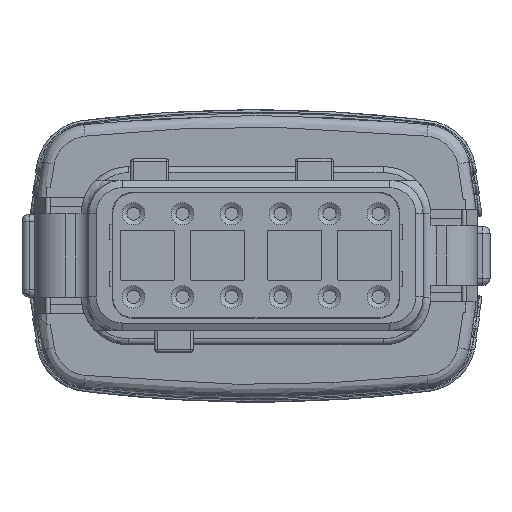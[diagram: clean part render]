
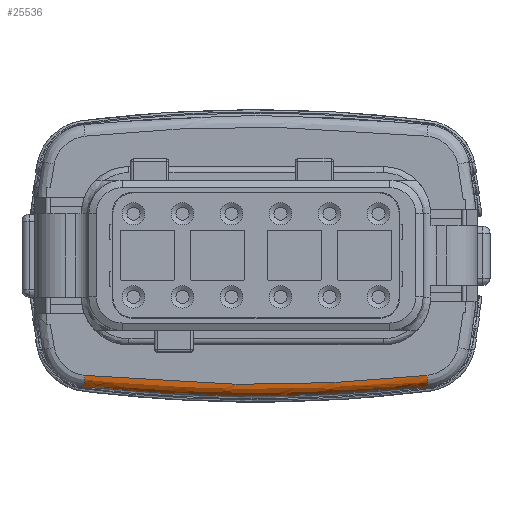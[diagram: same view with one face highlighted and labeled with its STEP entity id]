
A CAD part, top view. The second image highlights one B-rep face of the part: STEP entity #25536.
In plain terms, the highlighted free-form (B-spline) face has degree [3, 2] with [6, 3] control points.
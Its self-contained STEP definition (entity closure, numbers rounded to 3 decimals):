
#1458 = VERTEX_POINT ( 'NONE', #9177 ) ;
#2214 = CARTESIAN_POINT ( 'NONE',  ( -36.689, 0.71, 10.126 ) ) ;
#2961 = CARTESIAN_POINT ( 'NONE',  ( -7.45, 0.71, 10.126 ) ) ;
#3181 = CARTESIAN_POINT ( 'NONE',  ( -17.197, -0.055, 11.126 ) ) ;
#3290 = VERTEX_POINT ( 'NONE', #11269 ) ;
#3297 = CARTESIAN_POINT ( 'NONE',  ( -36.798, -0.33, 11.126 ) ) ;
#3324 = B_SPLINE_CURVE_WITH_KNOTS ( 'NONE', 3,
 ( #17622, #28076, #17931, #15511, #25737, #25627, #10455, #28189 ),
 .UNSPECIFIED., .F., .F.,
 ( 4, 2, 2, 4 ),
 ( 0., 0.007, 0.015, 0.03 ),
 .UNSPECIFIED. ) ;
#3337 = AXIS2_PLACEMENT_3D ( 'NONE', #2214, #4766, #22504 ) ;
#3762 = CARTESIAN_POINT ( 'NONE',  ( -22.07, -0.306, 11.126 ) ) ;
#4188 = EDGE_CURVE ( 'NONE', #3290, #25315, #3324, .T. ) ;
#4646 = ORIENTED_EDGE ( 'NONE', *, *, #10257, .F. ) ;
#4766 = DIRECTION ( 'NONE',  ( 0.994, -0.105, 0. ) ) ;
#5538 = EDGE_CURVE ( 'NONE', #30273, #3290, #31302, .T. ) ;
#5958 = CARTESIAN_POINT ( 'NONE',  ( -7.346, -0.284, 10.082 ) ) ;
#7534 =( BOUNDED_SURFACE ( )  B_SPLINE_SURFACE ( 3, 2, ( 
 ( #31265, #11193, #5958 ),
 ( #18367, #11086, #16039 ),
 ( #3181, #11304, #20913 ),
 ( #18476, #31160, #26051 ),
 ( #8540, #18696, #13398 ),
 ( #15926, #3297, #28963 ) ),
 .UNSPECIFIED., .F., .F., .F. ) 
 B_SPLINE_SURFACE_WITH_KNOTS ( ( 4, 2, 4 ),
 ( 3, 3 ),
 ( 0., 0.015, 0.029 ),
 ( 0., 1. ),
 .UNSPECIFIED. ) 
 GEOMETRIC_REPRESENTATION_ITEM ( )  RATIONAL_B_SPLINE_SURFACE ( (
 ( 1., 0.691, 1.),
 ( 1., 0.703, 1.),
 ( 1., 0.707, 1.),
 ( 1., 0.707, 1.),
 ( 1., 0.703, 1.),
 ( 1., 0.691, 1.) ) ) 
 REPRESENTATION_ITEM ( '' )  SURFACE ( )  );
#8540 = CARTESIAN_POINT ( 'NONE',  ( -31.816, 0.196, 11.126 ) ) ;
#8931 = ORIENTED_EDGE ( 'NONE', *, *, #4188, .F. ) ;
#9177 = CARTESIAN_POINT ( 'NONE',  ( -36.689, 0.71, 11.126 ) ) ;
#10257 = EDGE_CURVE ( 'NONE', #1458, #30273, #31621, .T. ) ;
#10455 = CARTESIAN_POINT ( 'NONE',  ( -31.898, -0.801, 10.113 ) ) ;
#11086 = CARTESIAN_POINT ( 'NONE',  ( -12.174, -0.807, 11.126 ) ) ;
#11193 = CARTESIAN_POINT ( 'NONE',  ( -7.341, -0.33, 11.126 ) ) ;
#11269 = CARTESIAN_POINT ( 'NONE',  ( -7.346, -0.284, 10.082 ) ) ;
#11285 = EDGE_CURVE ( 'NONE', #1458, #25315, #31881, .T. ) ;
#11304 = CARTESIAN_POINT ( 'NONE',  ( -17.162, -1.055, 11.126 ) ) ;
#11576 = FACE_OUTER_BOUND ( 'NONE', #21840, .T. ) ;
#13398 = CARTESIAN_POINT ( 'NONE',  ( -31.885, -0.802, 10.113 ) ) ;
#14385 = CARTESIAN_POINT ( 'NONE',  ( -7.45, 0.71, 11.126 ) ) ;
#15487 = CARTESIAN_POINT ( 'NONE',  ( -36.793, -0.284, 10.082 ) ) ;
#15511 = CARTESIAN_POINT ( 'NONE',  ( -17.161, -0.992, 10.123 ) ) ;
#15926 = CARTESIAN_POINT ( 'NONE',  ( -36.689, 0.71, 11.126 ) ) ;
#16039 = CARTESIAN_POINT ( 'NONE',  ( -12.254, -0.802, 10.113 ) ) ;
#16477 = CARTESIAN_POINT ( 'NONE',  ( -12.324, 0.196, 11.126 ) ) ;
#17622 = CARTESIAN_POINT ( 'NONE',  ( -7.346, -0.284, 10.082 ) ) ;
#17931 = CARTESIAN_POINT ( 'NONE',  ( -12.247, -0.735, 10.109 ) ) ;
#18367 = CARTESIAN_POINT ( 'NONE',  ( -12.324, 0.196, 11.126 ) ) ;
#18476 = CARTESIAN_POINT ( 'NONE',  ( -26.943, -0.055, 11.126 ) ) ;
#18696 = CARTESIAN_POINT ( 'NONE',  ( -31.965, -0.807, 11.126 ) ) ;
#20913 = CARTESIAN_POINT ( 'NONE',  ( -17.162, -1.055, 10.126 ) ) ;
#20946 = ORIENTED_EDGE ( 'NONE', *, *, #5538, .F. ) ;
#21840 = EDGE_LOOP ( 'NONE', ( #31956, #8931, #20946, #4646 ) ) ;
#22504 = DIRECTION ( 'NONE',  ( 0.105, 0.994, 0. ) ) ;
#24269 = CARTESIAN_POINT ( 'NONE',  ( -7.45, 0.71, 11.126 ) ) ;
#25315 = VERTEX_POINT ( 'NONE', #15487 ) ;
#25536 = ADVANCED_FACE ( 'NONE', ( #11576 ), #7534, .T. ) ;
#25627 = CARTESIAN_POINT ( 'NONE',  ( -26.993, -1.055, 10.126 ) ) ;
#25737 = CARTESIAN_POINT ( 'NONE',  ( -19.622, -1.055, 10.126 ) ) ;
#26051 = CARTESIAN_POINT ( 'NONE',  ( -26.977, -1.055, 10.126 ) ) ;
#26333 = AXIS2_PLACEMENT_3D ( 'NONE', #2961, #28396, #30833 ) ;
#28076 = CARTESIAN_POINT ( 'NONE',  ( -9.793, -0.542, 10.097 ) ) ;
#28189 = CARTESIAN_POINT ( 'NONE',  ( -36.793, -0.284, 10.082 ) ) ;
#28396 = DIRECTION ( 'NONE',  ( 0.994, 0.105, 0. ) ) ;
#28963 = CARTESIAN_POINT ( 'NONE',  ( -36.793, -0.284, 10.082 ) ) ;
#29510 = CARTESIAN_POINT ( 'NONE',  ( -31.816, 0.196, 11.126 ) ) ;
#30273 = VERTEX_POINT ( 'NONE', #14385 ) ;
#30833 = DIRECTION ( 'NONE',  ( -0.105, 0.994, 0. ) ) ;
#31160 = CARTESIAN_POINT ( 'NONE',  ( -26.977, -1.055, 11.126 ) ) ;
#31265 = CARTESIAN_POINT ( 'NONE',  ( -7.45, 0.71, 11.126 ) ) ;
#31302 = CIRCLE ( 'NONE', #26333, 1. ) ;
#31621 = B_SPLINE_CURVE_WITH_KNOTS ( 'NONE', 3,
 ( #31717, #29510, #3762, #16477, #24269 ),
 .UNSPECIFIED., .F., .F.,
 ( 4, 1, 4 ),
 ( 0., 0.015, 0.029 ),
 .UNSPECIFIED. ) ;
#31717 = CARTESIAN_POINT ( 'NONE',  ( -36.689, 0.71, 11.126 ) ) ;
#31881 = CIRCLE ( 'NONE', #3337, 1. ) ;
#31956 = ORIENTED_EDGE ( 'NONE', *, *, #11285, .T. ) ;
